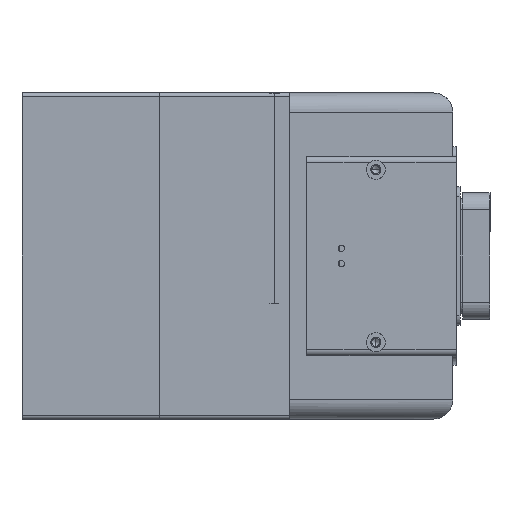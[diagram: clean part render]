
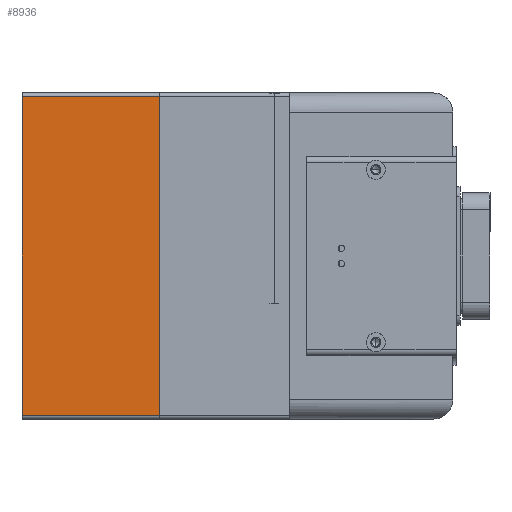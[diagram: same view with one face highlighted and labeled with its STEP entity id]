
A CAD part, left-side view. The second image highlights one B-rep face of the part: STEP entity #8936.
In plain terms, the highlighted planar face has unit normal (-1, 0, 0).
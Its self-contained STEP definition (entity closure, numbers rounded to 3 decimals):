
#302 = LINE ( 'NONE', #12403, #11205 ) ;
#715 = ORIENTED_EDGE ( 'NONE', *, *, #14810, .F. ) ;
#1402 = FACE_OUTER_BOUND ( 'NONE', #7756, .T. ) ;
#1929 = CARTESIAN_POINT ( 'NONE',  ( -142.5, 85., -83. ) ) ;
#2178 = CARTESIAN_POINT ( 'NONE',  ( -142.5, 71.5, -83. ) ) ;
#2220 = CARTESIAN_POINT ( 'NONE',  ( -142.5, 0., 0. ) ) ;
#2245 = VERTEX_POINT ( 'NONE', #5416 ) ;
#2654 = VERTEX_POINT ( 'NONE', #2178 ) ;
#2971 = VECTOR ( 'NONE', #17928, 1000. ) ;
#3454 = PLANE ( 'NONE',  #15603 ) ;
#4450 = ORIENTED_EDGE ( 'NONE', *, *, #18473, .F. ) ;
#5416 = CARTESIAN_POINT ( 'NONE',  ( -142.5, 71.5, 83. ) ) ;
#6010 = DIRECTION ( 'NONE',  ( 0., -1., 0. ) ) ;
#7573 = VERTEX_POINT ( 'NONE', #18543 ) ;
#7740 = DIRECTION ( 'NONE',  ( 0., 0., 1. ) ) ;
#7756 = EDGE_LOOP ( 'NONE', ( #11639, #13763, #4450, #715 ) ) ;
#8936 = ADVANCED_FACE ( 'NONE', ( #1402 ), #3454, .F. ) ;
#10033 = DIRECTION ( 'NONE',  ( 1., 0., 0. ) ) ;
#10726 = EDGE_CURVE ( 'NONE', #16503, #7573, #14303, .T. ) ;
#10733 = LINE ( 'NONE', #18171, #11899 ) ;
#11205 = VECTOR ( 'NONE', #7740, 1000. ) ;
#11425 = CARTESIAN_POINT ( 'NONE',  ( -142.5, 85., -85. ) ) ;
#11639 = ORIENTED_EDGE ( 'NONE', *, *, #12759, .F. ) ;
#11860 = CARTESIAN_POINT ( 'NONE',  ( -142.5, 0., -83. ) ) ;
#11899 = VECTOR ( 'NONE', #6010, 1000. ) ;
#12403 = CARTESIAN_POINT ( 'NONE',  ( -142.5, 71.5, -85. ) ) ;
#12759 = EDGE_CURVE ( 'NONE', #16503, #2654, #18168, .T. ) ;
#12836 = DIRECTION ( 'NONE',  ( 0., 1., 0. ) ) ;
#13763 = ORIENTED_EDGE ( 'NONE', *, *, #10726, .T. ) ;
#14303 = LINE ( 'NONE', #2220, #2971 ) ;
#14810 = EDGE_CURVE ( 'NONE', #2654, #2245, #302, .T. ) ;
#15603 = AXIS2_PLACEMENT_3D ( 'NONE', #11425, #10033, #15961 ) ;
#15961 = DIRECTION ( 'NONE',  ( 0., 0., -1. ) ) ;
#16503 = VERTEX_POINT ( 'NONE', #11860 ) ;
#17928 = DIRECTION ( 'NONE',  ( 0., 0., 1. ) ) ;
#18168 = LINE ( 'NONE', #1929, #19107 ) ;
#18171 = CARTESIAN_POINT ( 'NONE',  ( -142.5, 85., 83. ) ) ;
#18473 = EDGE_CURVE ( 'NONE', #2245, #7573, #10733, .T. ) ;
#18543 = CARTESIAN_POINT ( 'NONE',  ( -142.5, 0., 83. ) ) ;
#19107 = VECTOR ( 'NONE', #12836, 1000. ) ;
